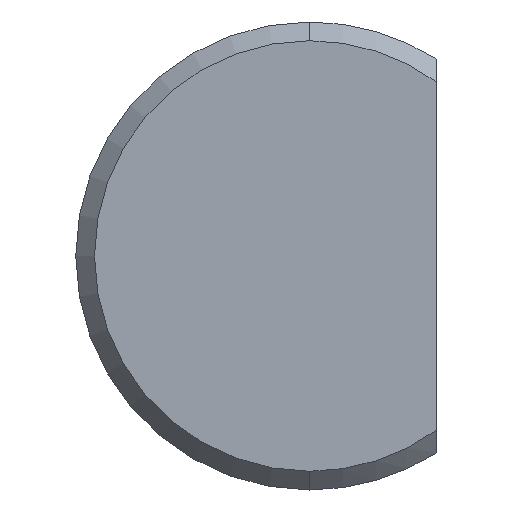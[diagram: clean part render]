
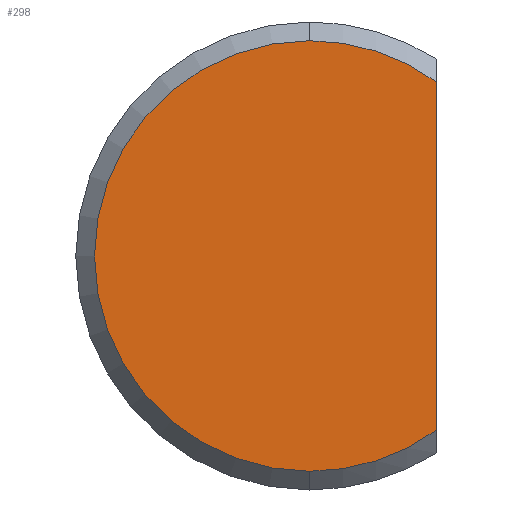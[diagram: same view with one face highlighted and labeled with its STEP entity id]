
A CAD part, front view. The second image highlights one B-rep face of the part: STEP entity #298.
In plain terms, the highlighted planar face has unit normal (0, -1, 0).
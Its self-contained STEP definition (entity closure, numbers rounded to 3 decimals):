
#21 = AXIS2_PLACEMENT_3D ( 'NONE', #318, #168, #269 ) ;
#23 = AXIS2_PLACEMENT_3D ( 'NONE', #219, #416, #277 ) ;
#24 = EDGE_CURVE ( 'NONE', #296, #291, #356, .T. ) ;
#28 = CARTESIAN_POINT ( 'NONE',  ( 0., 0., 0. ) ) ;
#37 = CARTESIAN_POINT ( 'NONE',  ( 0., 0., 0. ) ) ;
#39 = ORIENTED_EDGE ( 'NONE', *, *, #473, .T. ) ;
#52 = DIRECTION ( 'NONE',  ( 0., -1., 0. ) ) ;
#59 = CIRCLE ( 'NONE', #23, 2.3 ) ;
#75 = DIRECTION ( 'NONE',  ( 0., -1., 0. ) ) ;
#78 = VERTEX_POINT ( 'NONE', #190 ) ;
#79 = CARTESIAN_POINT ( 'NONE',  ( 0., 0., 2.3 ) ) ;
#158 = CARTESIAN_POINT ( 'NONE',  ( 1.35, 0., -1.862 ) ) ;
#168 = DIRECTION ( 'NONE',  ( 0., -1., 0. ) ) ;
#190 = CARTESIAN_POINT ( 'NONE',  ( 1.35, 0., 1.862 ) ) ;
#199 = ORIENTED_EDGE ( 'NONE', *, *, #540, .T. ) ;
#219 = CARTESIAN_POINT ( 'NONE',  ( 0., 0., 0. ) ) ;
#223 = VERTEX_POINT ( 'NONE', #158 ) ;
#245 = EDGE_LOOP ( 'NONE', ( #534, #321, #199, #39 ) ) ;
#249 = CARTESIAN_POINT ( 'NONE',  ( 0., 0., -2.3 ) ) ;
#269 = DIRECTION ( 'NONE',  ( 0., 0., -1. ) ) ;
#277 = DIRECTION ( 'NONE',  ( 0., 0., -1. ) ) ;
#291 = VERTEX_POINT ( 'NONE', #249 ) ;
#296 = VERTEX_POINT ( 'NONE', #79 ) ;
#298 = ADVANCED_FACE ( 'NONE', ( #601 ), #326, .T. ) ;
#318 = CARTESIAN_POINT ( 'NONE',  ( 0., 0., 0. ) ) ;
#321 = ORIENTED_EDGE ( 'NONE', *, *, #24, .T. ) ;
#326 = PLANE ( 'NONE',  #484 ) ;
#348 = VECTOR ( 'NONE', #550, 1000. ) ;
#356 = CIRCLE ( 'NONE', #21, 2.3 ) ;
#368 = DIRECTION ( 'NONE',  ( 0., 0., -1. ) ) ;
#416 = DIRECTION ( 'NONE',  ( 0., -1., 0. ) ) ;
#454 = CARTESIAN_POINT ( 'NONE',  ( 1.35, 0., -2.104 ) ) ;
#473 = EDGE_CURVE ( 'NONE', #223, #78, #495, .T. ) ;
#484 = AXIS2_PLACEMENT_3D ( 'NONE', #37, #52, #368 ) ;
#495 = LINE ( 'NONE', #454, #348 ) ;
#534 = ORIENTED_EDGE ( 'NONE', *, *, #536, .T. ) ;
#536 = EDGE_CURVE ( 'NONE', #78, #296, #581, .T. ) ;
#540 = EDGE_CURVE ( 'NONE', #291, #223, #59, .T. ) ;
#550 = DIRECTION ( 'NONE',  ( 0., 0., 1. ) ) ;
#555 = AXIS2_PLACEMENT_3D ( 'NONE', #28, #75, #598 ) ;
#581 = CIRCLE ( 'NONE', #555, 2.3 ) ;
#598 = DIRECTION ( 'NONE',  ( 0., 0., -1. ) ) ;
#601 = FACE_OUTER_BOUND ( 'NONE', #245, .T. ) ;
